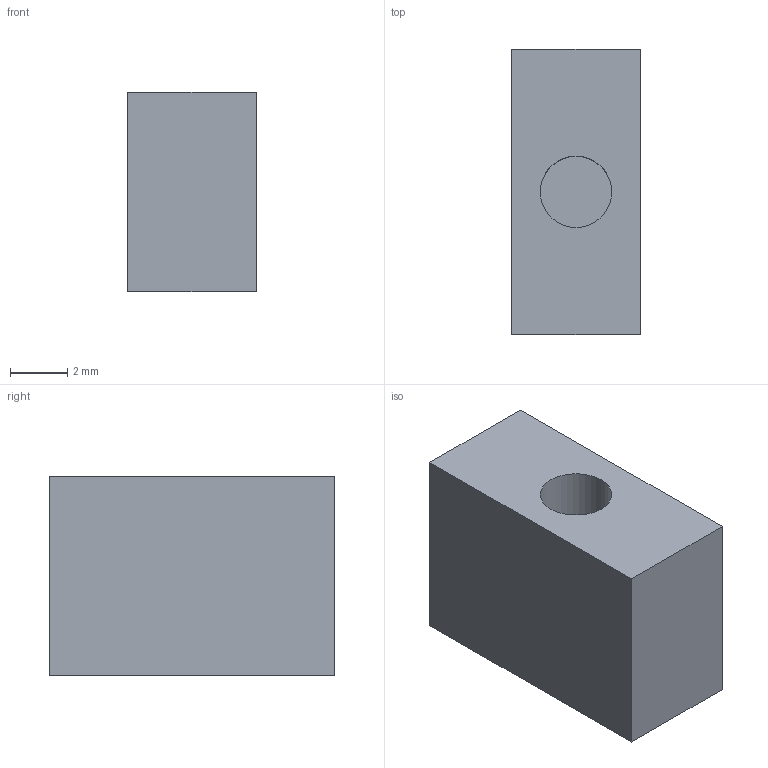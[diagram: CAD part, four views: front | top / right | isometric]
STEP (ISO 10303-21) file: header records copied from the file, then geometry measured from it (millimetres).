
FILE_DESCRIPTION(('FreeCAD Model'),'2;1');
FILE_NAME( 'E:/CAD Designs/Garmin/Final/CAD files/STEP/pcb_spacer_small.step', '2021-02-27T12:59:59',('Author'),(''), 'Open CASCADE STEP processor 7.3','FreeCAD','Unknown');
FILE_SCHEMA(('AUTOMOTIVE_DESIGN { 1 0 10303 214 1 1 1 1 }'));
Length unit declared in the file: millimetre
Products named in the file (1): Body
Bounding box: 4.5 x 10 x 7 mm (x, y, z)
Volume: 290.5 mm3; surface area: 332.3 mm2
Topology: 1 solids, 1 shells, 8 faces, 15 edges, 10 vertices
Faces by surface type: plane 7, cylinder 1
Full cylindrical faces by diameter (mm): 2.5 x1
Entity records: 417 total; most frequent: DIRECTION 65, CARTESIAN_POINT 64, LINE 41, VECTOR 41, ORIENTED_EDGE 30, PCURVE 30, DEFINITIONAL_REPRESENTATION 30, EDGE_CURVE 15
